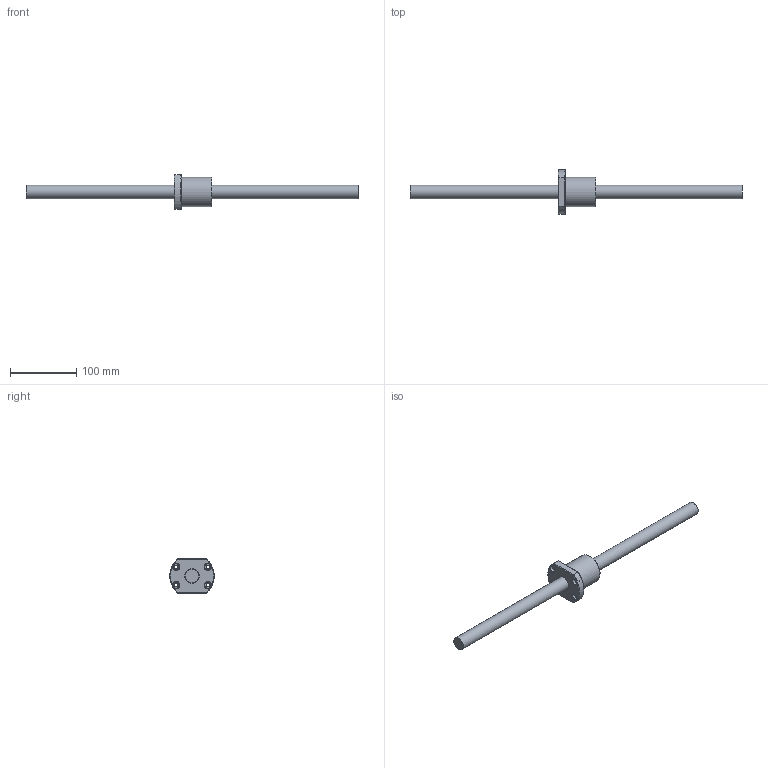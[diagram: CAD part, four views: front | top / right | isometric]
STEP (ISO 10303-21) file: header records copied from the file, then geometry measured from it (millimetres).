
FILE_DESCRIPTION (( 'STEP AP203' ), '1' );
FILE_NAME ('SFV02005D-4.8.step', '2024-05-20T03:37:41', ( '' ), ( '' ), 'SwSTEP 2.0', 'SolidWorks 2022', '' );
FILE_SCHEMA (( 'CONFIG_CONTROL_DESIGN' ));
Length unit declared in the file: millimetre
Products named in the file (1): SFV02005D-4.8
Bounding box: 500 x 66.89 x 52 mm (x, y, z)
Volume: 236463.6 mm3; surface area: 50879.4 mm2
Topology: 2 solids, 2 shells, 56 faces, 146 edges, 95 vertices
Faces by surface type: cylinder 21, plane 16, cone 9, torus 5, bspline 5
Full cylindrical faces by diameter (mm): 4 x1, 5 x6, 5.5 x4, 9.5 x4, 20 x1, 22.1 x1, 44 x1
Entity records: 3272 total; most frequent: CARTESIAN_POINT 2186, DIRECTION 198, ORIENTED_EDGE 182, EDGE_CURVE 91, AXIS2_PLACEMENT_3D 91, EDGE_LOOP 86, VERTEX_POINT 71, FACE_OUTER_BOUND 64
